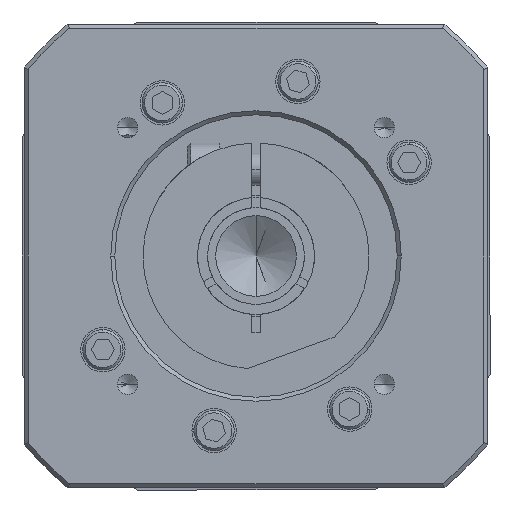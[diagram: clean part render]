
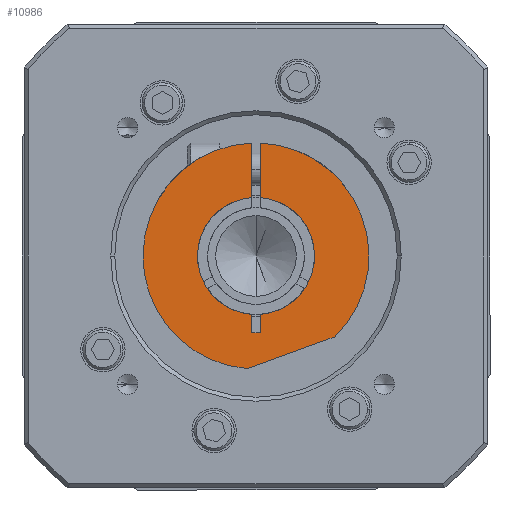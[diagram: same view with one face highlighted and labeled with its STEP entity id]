
A CAD part, front view. The second image highlights one B-rep face of the part: STEP entity #10986.
In plain terms, the highlighted planar face has unit normal (0, -1, 0).
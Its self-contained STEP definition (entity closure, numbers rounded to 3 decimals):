
#6120 = DIRECTION ( 'NONE',  ( 0., 0., -1. ) ) ;
#6121 = AXIS2_PLACEMENT_3D ( 'NONE', #6334, #6338, #6120 ) ;
#6334 = CARTESIAN_POINT ( 'NONE',  ( 0., -23.5, 0. ) ) ;
#6335 = CIRCLE ( 'NONE', #6121, 14.51 ) ;
#6338 = DIRECTION ( 'NONE',  ( 0., -1., 0. ) ) ;
#6360 = CARTESIAN_POINT ( 'NONE',  ( -1., -23.5, -14.475 ) ) ;
#6889 = CARTESIAN_POINT ( 'NONE',  ( -1., -23.5, 14.475 ) ) ;
#10624 = EDGE_CURVE ( 'NONE', #10917, #10779, #6335, .T. ) ;
#10779 = VERTEX_POINT ( 'NONE', #6360 ) ;
#10917 = VERTEX_POINT ( 'NONE', #6889 ) ;
#10984 = ORIENTED_EDGE ( 'NONE', *, *, #11053, .F. ) ;
#10985 = EDGE_CURVE ( 'NONE', #11015, #11016, #12443, .T. ) ;
#10986 = ADVANCED_FACE ( 'NONE', ( #12481 ), #12331, .F. ) ;
#10987 = ORIENTED_EDGE ( 'NONE', *, *, #11041, .F. ) ;
#10988 = VERTEX_POINT ( 'NONE', #12493 ) ;
#10989 = EDGE_CURVE ( 'NONE', #11047, #11015, #12382, .T. ) ;
#10990 = VERTEX_POINT ( 'NONE', #12348 ) ;
#11001 = EDGE_CURVE ( 'NONE', #11002, #11050, #12337, .T. ) ;
#11002 = VERTEX_POINT ( 'NONE', #12381 ) ;
#11003 = ORIENTED_EDGE ( 'NONE', *, *, #11116, .F. ) ;
#11004 = EDGE_CURVE ( 'NONE', #11050, #11044, #12345, .T. ) ;
#11015 = VERTEX_POINT ( 'NONE', #12339 ) ;
#11016 = VERTEX_POINT ( 'NONE', #12402 ) ;
#11029 = ORIENTED_EDGE ( 'NONE', *, *, #10985, .F. ) ;
#11041 = EDGE_CURVE ( 'NONE', #10988, #11047, #12350, .T. ) ;
#11042 = ORIENTED_EDGE ( 'NONE', *, *, #11004, .F. ) ;
#11043 = EDGE_CURVE ( 'NONE', #10990, #10988, #12469, .T. ) ;
#11044 = VERTEX_POINT ( 'NONE', #12353 ) ;
#11045 = ORIENTED_EDGE ( 'NONE', *, *, #10624, .F. ) ;
#11046 = ORIENTED_EDGE ( 'NONE', *, *, #10989, .F. ) ;
#11047 = VERTEX_POINT ( 'NONE', #12465 ) ;
#11050 = VERTEX_POINT ( 'NONE', #12478 ) ;
#11052 = ORIENTED_EDGE ( 'NONE', *, *, #11001, .F. ) ;
#11053 = EDGE_CURVE ( 'NONE', #11016, #11002, #12462, .T. ) ;
#11114 = ORIENTED_EDGE ( 'NONE', *, *, #11043, .F. ) ;
#11115 = EDGE_CURVE ( 'NONE', #10779, #10990, #12432, .T. ) ;
#11116 = EDGE_CURVE ( 'NONE', #11044, #10917, #12351, .T. ) ;
#11117 = ORIENTED_EDGE ( 'NONE', *, *, #11115, .F. ) ;
#11169 = EDGE_LOOP ( 'NONE', ( #11029, #11046, #10987, #11114, #11117, #11045, #11003, #11042, #11052, #10984 ) ) ;
#12319 = DIRECTION ( 'NONE',  ( 0., 0., -1. ) ) ;
#12320 = VECTOR ( 'NONE', #12319, 1000. ) ;
#12322 = DIRECTION ( 'NONE',  ( 0., 0., -1. ) ) ;
#12331 = PLANE ( 'NONE',  #12420 ) ;
#12334 = DIRECTION ( 'NONE',  ( -0.94, 0., -0.342 ) ) ;
#12335 = VECTOR ( 'NONE', #12334, 1000. ) ;
#12336 = CARTESIAN_POINT ( 'NONE',  ( -2.146, -23.5, -27.918 ) ) ;
#12337 = LINE ( 'NONE', #12336, #12335 ) ;
#12339 = CARTESIAN_POINT ( 'NONE',  ( 1., -23.5, 14.475 ) ) ;
#12341 = DIRECTION ( 'NONE',  ( 0., 0., -1. ) ) ;
#12342 = DIRECTION ( 'NONE',  ( 0., -1., 0. ) ) ;
#12343 = CARTESIAN_POINT ( 'NONE',  ( 0., -23.5, 0. ) ) ;
#12344 = CARTESIAN_POINT ( 'NONE',  ( 0., -23.5, 0. ) ) ;
#12345 = CIRCLE ( 'NONE', #12346, 28. ) ;
#12346 = AXIS2_PLACEMENT_3D ( 'NONE', #12344, #12413, #12412 ) ;
#12347 = DIRECTION ( 'NONE',  ( 0., 0., 1. ) ) ;
#12348 = CARTESIAN_POINT ( 'NONE',  ( -1., -23.5, -19. ) ) ;
#12350 = LINE ( 'NONE', #12474, #12473 ) ;
#12351 = LINE ( 'NONE', #12422, #12320 ) ;
#12353 = CARTESIAN_POINT ( 'NONE',  ( -1., -23.5, 27.982 ) ) ;
#12381 = CARTESIAN_POINT ( 'NONE',  ( 19.589, -23.5, -20.007 ) ) ;
#12382 = CIRCLE ( 'NONE', #12483, 14.51 ) ;
#12383 = VECTOR ( 'NONE', #12486, 1000. ) ;
#12402 = CARTESIAN_POINT ( 'NONE',  ( 1., -23.5, 27.982 ) ) ;
#12412 = DIRECTION ( 'NONE',  ( 0., 0., 1. ) ) ;
#12413 = DIRECTION ( 'NONE',  ( 0., 1., 0. ) ) ;
#12420 = AXIS2_PLACEMENT_3D ( 'NONE', #12444, #12492, #12347 ) ;
#12422 = CARTESIAN_POINT ( 'NONE',  ( -1., -23.5, 27.982 ) ) ;
#12431 = CARTESIAN_POINT ( 'NONE',  ( -1., -23.5, -14.465 ) ) ;
#12432 = LINE ( 'NONE', #12431, #12434 ) ;
#12434 = VECTOR ( 'NONE', #12322, 1000. ) ;
#12443 = LINE ( 'NONE', #12487, #12383 ) ;
#12444 = CARTESIAN_POINT ( 'NONE',  ( 28., -23.5, 0. ) ) ;
#12453 = DIRECTION ( 'NONE',  ( 0., 0., 1. ) ) ;
#12454 = DIRECTION ( 'NONE',  ( 0., 1., 0. ) ) ;
#12455 = AXIS2_PLACEMENT_3D ( 'NONE', #12470, #12454, #12453 ) ;
#12462 = CIRCLE ( 'NONE', #12455, 28. ) ;
#12465 = CARTESIAN_POINT ( 'NONE',  ( 1., -23.5, -14.475 ) ) ;
#12466 = DIRECTION ( 'NONE',  ( 1., 0., 0. ) ) ;
#12467 = VECTOR ( 'NONE', #12466, 1000. ) ;
#12468 = CARTESIAN_POINT ( 'NONE',  ( -1., -23.5, -19. ) ) ;
#12469 = LINE ( 'NONE', #12468, #12467 ) ;
#12470 = CARTESIAN_POINT ( 'NONE',  ( 0., -23.5, 0. ) ) ;
#12472 = DIRECTION ( 'NONE',  ( 0., 0., 1. ) ) ;
#12473 = VECTOR ( 'NONE', #12472, 1000. ) ;
#12474 = CARTESIAN_POINT ( 'NONE',  ( 1., -23.5, -19. ) ) ;
#12478 = CARTESIAN_POINT ( 'NONE',  ( -2.146, -23.5, -27.918 ) ) ;
#12481 = FACE_OUTER_BOUND ( 'NONE', #11169, .T. ) ;
#12483 = AXIS2_PLACEMENT_3D ( 'NONE', #12343, #12342, #12341 ) ;
#12486 = DIRECTION ( 'NONE',  ( 0., 0., 1. ) ) ;
#12487 = CARTESIAN_POINT ( 'NONE',  ( 1., -23.5, 14.465 ) ) ;
#12492 = DIRECTION ( 'NONE',  ( 0., 1., 0. ) ) ;
#12493 = CARTESIAN_POINT ( 'NONE',  ( 1., -23.5, -19. ) ) ;
